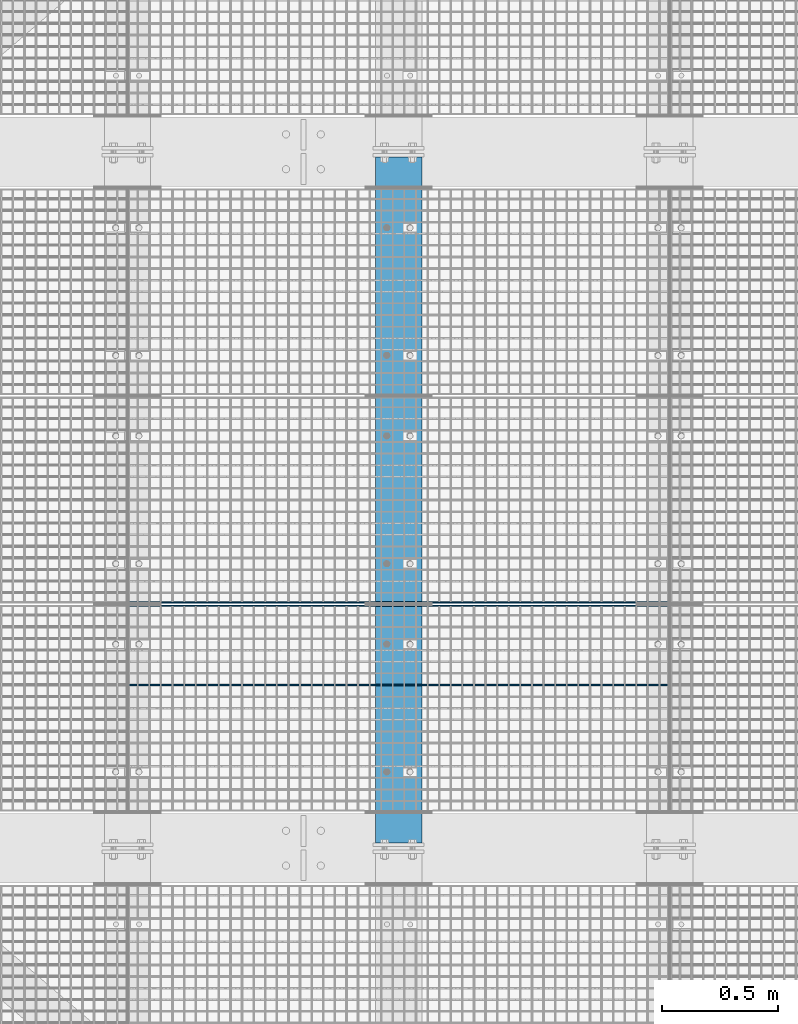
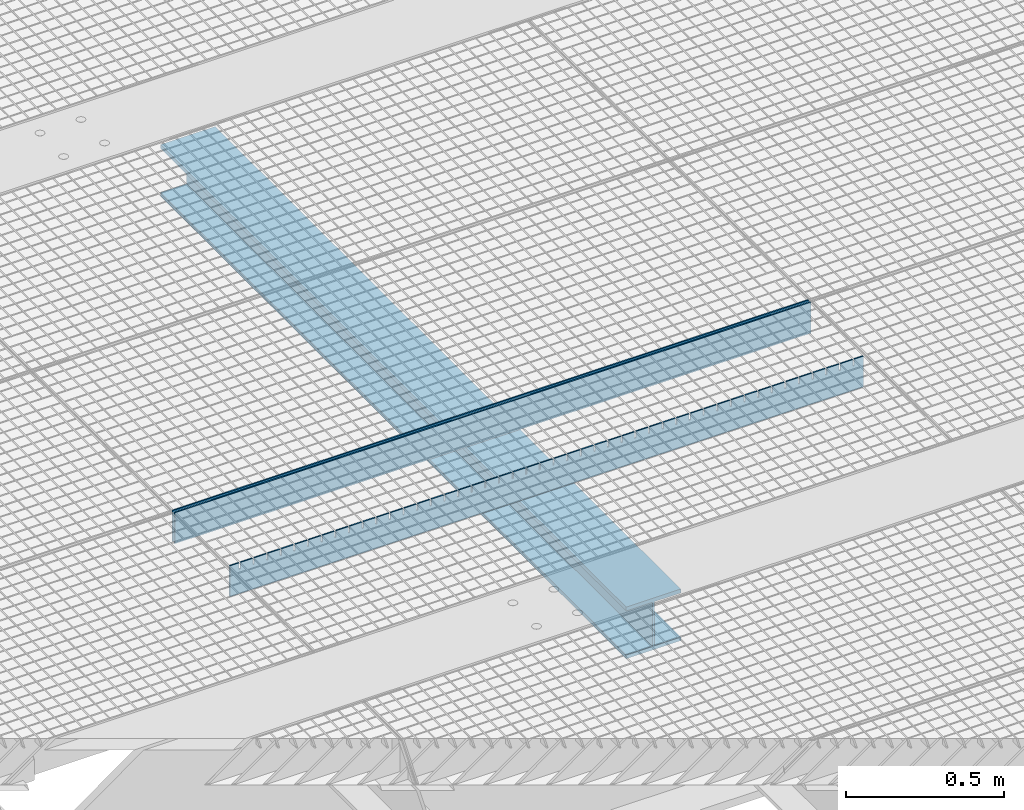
# One storey, part 384 of 1530: 4 beams.
"""IFC2X3 building model written with IfcOpenShell, lengths in millimetres."""

from ifc_helpers import new_model, si_unit, frame, origin_with_axes, place, context, subcontext, project, spatial, faceted_brep, material, type_object, element, save


model = new_model("IFC2X3")

# Units and contexts
model_context = context("Model", 3, precision=1e-05, world=origin_with_axes())
body_context = subcontext(model_context, "Body", "Model", "MODEL_VIEW")
ifc_project = project(units=[si_unit("LENGTHUNIT", "METRE", prefix="MILLI"), si_unit("AREAUNIT", "SQUARE_METRE"), si_unit("VOLUMEUNIT", "CUBIC_METRE"), si_unit("MASSUNIT", "GRAM", prefix="KILO"), si_unit("TIMEUNIT", "SECOND"), si_unit("PLANEANGLEUNIT", "RADIAN"), si_unit("SOLIDANGLEUNIT", "STERADIAN"), si_unit("THERMODYNAMICTEMPERATUREUNIT", "DEGREE_CELSIUS"), si_unit("LUMINOUSINTENSITYUNIT", "LUMEN")], contexts=[model_context])

# Site, building, storey
site_placement = place(None, origin_with_axes())
site = spatial("IfcSite", under=ifc_project, at=site_placement, Name="Brattvåg", CompositionType="ELEMENT")
building_placement = place(site_placement, origin_with_axes())
building = spatial("IfcBuilding", under=site, at=building_placement, Name="Undefined", CompositionType="ELEMENT")
storey_placement = place(building_placement, origin_with_axes())
storey = spatial("IfcBuildingStorey", under=building, at=storey_placement, Name="Undefined", CompositionType="ELEMENT", Elevation=0.0)

# Beams
ifc_material_1 = material(Name="STEEL/S355J2")
beam_type_1 = type_object("IfcBeamType", Name="120*5", PredefinedType="NOTDEFINED")
beam_1_placement = place(storey_placement, frame((7570.01317977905, 3702.99487304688, -59.9998626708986), z_axis=(0.0, 0.0, 1.0), x_axis=(-1.0, 1.99999855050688e-09, 0.0)))
element("IfcBeam", 1, at=beam_1_placement, inside=storey, type_object=beam_type_1, material=ifc_material_1, Name="GRATING", context=body_context, shape_type="Brep", body=[
    faceted_brep([(83.5790367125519, -2.50000000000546, 60.0000722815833), (83.5790367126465, -2.50000000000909, 35.0001373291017), (83.5790367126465, 2.50022888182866, 35.0001373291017), (83.5790367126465, 2.5, 60.0), (88.5790367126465, -2.50000000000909, 35.0001373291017), (88.5790367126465, 2.50022888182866, 35.0001373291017), (88.5790367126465, -2.50000000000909, 60.0001373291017), (88.5790367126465, 2.5, 60.0), (38.6284370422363, -2.50000000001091, 60.0001373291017), (38.6284370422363, 2.5, 60.0), (38.6284370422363, 2.49999999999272, 35.0001373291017), (38.6284370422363, -2.50000000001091, 35.0001373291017), (33.6284370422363, 2.49999999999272, 35.0001373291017), (33.6284370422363, -2.50000000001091, 35.0001373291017), (33.6284370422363, -2.5, 60.0), (33.6284370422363, 2.5, 60.0), (0.0, 2.5, 60.0), (0.0, -2.5, 60.0), (0.0, -2.5, -60.0), (0.0, 2.5, -60.0), (2319.99865722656, 2.5, -60.0), (2319.99865722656, -2.5, -60.0), (2319.99865722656, -2.5, 60.0), (2319.99865722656, 2.5, 60.0), (2286.37871932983, 2.5, 60.0), (2286.37871932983, -2.50000000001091, 60.0001373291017), (2286.37871932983, 2.49999999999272, 35.0001373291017), (2286.37871932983, -2.50000000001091, 35.0001373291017), (2281.37871932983, 2.49999999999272, 35.0001373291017), (2281.37871932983, -2.50000000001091, 35.0001373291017), (2281.37871932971, -2.50000000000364, 60.0000634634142), (2281.37871932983, 2.5, 60.0), (2236.42859649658, 2.5, 60.0), (2236.42859649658, -2.50000000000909, 60.0001373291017), (2236.42859649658, 2.50022888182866, 35.0001373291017), (2236.42859649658, -2.50000000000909, 35.0001373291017), (2231.42859649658, 2.50022888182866, 35.0001373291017), (2231.42859649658, -2.50000000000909, 35.0001373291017), (2231.42859649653, -2.50000000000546, 60.0000910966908), (2231.42859649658, 2.5, 60.0), (2186.47847366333, 2.5, 60.0), (2186.47847366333, -2.50000000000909, 60.0001373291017), (2186.47847366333, 2.50022888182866, 35.0001373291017), (2186.47847366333, -2.50000000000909, 35.0001373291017), (2181.47847366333, 2.50022888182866, 35.0001373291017), (2181.47847366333, -2.50000000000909, 35.0001373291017), (2181.47847366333, -2.5, 60.0), (2181.47847366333, 2.5, 60.0), (2136.52882766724, 2.5, 60.0), (2136.52882766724, -2.50000000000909, 60.0001373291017), (2136.52882766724, 2.50022888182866, 35.0001373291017), (2136.52882766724, -2.50000000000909, 35.0001373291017), (2131.52882766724, 2.50022888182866, 35.0001373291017), (2131.52882766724, -2.50000000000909, 35.0001373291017), (2131.52882766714, -2.50000000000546, 60.0000722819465), (2131.52882766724, 2.5, 60.0), (2086.57870483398, 2.5, 60.0), (2086.57870483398, -2.50000000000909, 60.0001373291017), (2086.57870483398, 2.50022888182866, 35.0001373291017), (2086.57870483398, -2.50000000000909, 35.0001373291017), (2081.57870483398, 2.50022888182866, 35.0001373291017), (2081.57870483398, -2.50000000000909, 35.0001373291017), (2081.57870483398, -2.5, 60.0), (2081.57870483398, 2.5, 60.0), (2036.62858200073, 2.5, 60.0), (2036.62858200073, -2.50000000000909, 60.0001373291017), (2036.62858200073, 2.50022888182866, 35.0001373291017), (2036.62858200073, -2.50000000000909, 35.0001373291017), (2031.62858200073, 2.50022888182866, 35.0001373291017), (2031.62858200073, -2.50000000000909, 35.0001373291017), (2031.62858200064, -2.50000000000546, 60.0000722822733), (2031.62858200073, 2.5, 60.0), (1986.67845916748, 2.5, 60.0), (1986.67845916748, -2.50000000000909, 60.0001373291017), (1986.67845916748, 2.50022888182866, 35.0001373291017), (1986.67845916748, -2.50000000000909, 35.0001373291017), (1981.67845916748, 2.50022888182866, 35.0001373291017), (1981.67845916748, -2.50000000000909, 35.0001373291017), (1981.67845916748, -2.5, 60.0), (1981.67845916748, 2.5, 60.0), (1936.72881317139, 2.5, 60.0), (1936.72881317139, -2.50000000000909, 60.0001373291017), (1936.72881317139, 2.50022888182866, 35.0001373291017), (1936.72881317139, -2.50000000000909, 35.0001373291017), (1931.72881317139, 2.50022888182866, 35.0001373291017), (1931.72881317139, -2.50000000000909, 35.0001373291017), (1931.72881317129, -2.50000000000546, 60.0000722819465), (1931.72881317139, 2.5, 60.0), (1886.77869033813, 2.5, 60.0), (1886.77869033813, -2.50000000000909, 60.0001373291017), (1886.77869033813, 2.50022888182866, 35.0001373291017), (1886.77869033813, -2.50000000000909, 35.0001373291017), (1881.77869033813, 2.50022888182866, 35.0001373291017), (1881.77869033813, -2.50000000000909, 35.0001373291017), (1881.77869033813, -2.5, 60.0), (1881.77869033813, 2.5, 60.0), (1836.82856750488, 2.5, 60.0), (1836.82856750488, -2.50000000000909, 60.0001373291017), (1836.82856750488, 2.50022888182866, 35.0001373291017), (1836.82856750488, -2.50000000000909, 35.0001373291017), (1831.82856750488, 2.50022888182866, 35.0001373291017), (1831.82856750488, -2.50000000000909, 35.0001373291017), (1831.82856750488, -2.5, 60.0), (1831.82856750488, 2.5, 60.0), (1786.87892150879, 2.5, 60.0), (1786.87892150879, -2.50000000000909, 60.0001373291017), (1786.87892150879, 2.50022888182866, 35.0001373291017), (1786.87892150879, -2.50000000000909, 35.0001373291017), (1781.87892150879, 2.50022888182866, 35.0001373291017), (1781.87892150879, -2.50000000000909, 35.0001373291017), (1781.87892150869, -2.50000000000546, 60.0000722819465), (1781.87892150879, 2.5, 60.0), (1736.92879867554, 2.5, 60.0), (1736.92879867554, -2.50000000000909, 60.0001373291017), (1736.92879867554, 2.50022888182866, 35.0001373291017), (1736.92879867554, -2.50000000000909, 35.0001373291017), (1731.92879867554, 2.50022888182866, 35.0001373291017), (1731.92879867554, -2.50000000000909, 35.0001373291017), (1731.92879867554, -2.5, 60.0), (1731.92879867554, 2.5, 60.0), (1686.97867584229, 2.5, 60.0), (1686.97867584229, -2.50000000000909, 60.0001373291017), (1686.97867584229, 2.50022888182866, 35.0001373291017), (1686.97867584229, -2.50000000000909, 35.0001373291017), (1681.97867584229, 2.50022888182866, 35.0001373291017), (1681.97867584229, -2.50000000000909, 35.0001373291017), (1681.97867584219, -2.50000000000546, 60.0000722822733), (1681.97867584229, 2.5, 60.0), (1637.02855300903, 2.5, 60.0), (1637.02855300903, -2.50000000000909, 60.0001373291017), (1637.02855300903, 2.50022888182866, 35.0001373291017), (1637.02855300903, -2.50000000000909, 35.0001373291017), (1632.02855300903, 2.50022888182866, 35.0001373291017), (1632.02855300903, -2.50000000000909, 35.0001373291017), (1632.02855300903, -2.5, 60.0), (1632.02855300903, 2.5, 60.0), (1587.07890701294, 2.5, 60.0), (1587.07890701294, -2.50000000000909, 60.0001373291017), (1587.07890701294, 2.50022888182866, 35.0001373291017), (1587.07890701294, -2.50000000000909, 35.0001373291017), (1582.07890701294, 2.50022888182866, 35.0001373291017), (1582.07890701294, -2.50000000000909, 35.0001373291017), (1582.07890701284, -2.50000000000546, 60.0000722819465), (1582.07890701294, 2.5, 60.0), (1537.12878417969, 2.5, 60.0), (1537.12878417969, -2.50000000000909, 60.0001373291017), (1537.12878417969, 2.50022888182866, 35.0001373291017), (1537.12878417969, -2.50000000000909, 35.0001373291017), (1532.12878417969, 2.50022888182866, 35.0001373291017), (1532.12878417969, -2.50000000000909, 35.0001373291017), (1532.12878417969, -2.5, 60.0), (1532.12878417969, 2.5, 60.0), (1487.17866134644, 2.5, 60.0), (1487.17866134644, -2.50000000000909, 60.0001373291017), (1487.17866134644, 2.50022888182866, 35.0001373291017), (1487.17866134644, -2.50000000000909, 35.0001373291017), (1482.17866134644, 2.50022888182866, 35.0001373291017), (1482.17866134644, -2.50000000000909, 35.0001373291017), (1482.17866134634, -2.50000000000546, 60.0000722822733), (1482.17866134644, 2.5, 60.0), (1437.22853851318, 2.5, 60.0), (1437.22853851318, -2.50000000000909, 60.0001373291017), (1437.22853851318, 2.50022888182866, 35.0001373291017), (1437.22853851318, -2.50000000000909, 35.0001373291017), (1432.22853851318, 2.50022888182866, 35.0001373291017), (1432.22853851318, -2.50000000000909, 35.0001373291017), (1432.22853851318, -2.5, 60.0), (1432.22853851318, 2.5, 60.0), (1387.27889251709, 2.5, 60.0), (1387.27889251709, -2.50000000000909, 60.0001373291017), (1387.27889251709, 2.50022888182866, 35.0001373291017), (1387.27889251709, -2.50000000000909, 35.0001373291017), (1382.27889251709, 2.50022888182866, 35.0001373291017), (1382.27889251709, -2.50000000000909, 35.0001373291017), (1382.278892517, -2.50000000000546, 60.0000722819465), (1382.27889251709, 2.5, 60.0), (1337.32876968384, 2.5, 60.0), (1337.32876968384, -2.50000000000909, 60.0001373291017), (1337.32876968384, 2.50022888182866, 35.0001373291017), (1337.32876968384, -2.50000000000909, 35.0001373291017), (1332.32876968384, 2.50022888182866, 35.0001373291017), (1332.32876968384, -2.50000000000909, 35.0001373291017), (1332.32876968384, -2.5, 60.0), (1332.32876968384, 2.5, 60.0), (1287.37864685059, 2.5, 60.0), (1287.37864685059, -2.50000000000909, 60.0001373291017), (1287.37864685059, 2.50022888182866, 35.0001373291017), (1287.37864685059, -2.50000000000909, 35.0001373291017), (1282.37864685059, 2.50022888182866, 35.0001373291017), (1282.37864685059, -2.50000000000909, 35.0001373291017), (1282.37864685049, -2.50000000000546, 60.0000722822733), (1282.37864685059, 2.5, 60.0), (1237.42852401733, 2.5, 60.0), (1237.42852401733, -2.50000000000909, 60.0001373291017), (1237.42852401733, 2.50022888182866, 35.0001373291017), (1237.42852401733, -2.50000000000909, 35.0001373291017), (1232.42852401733, 2.50022888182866, 35.0001373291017), (1232.42852401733, -2.50000000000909, 35.0001373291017), (1232.42852401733, -2.5, 60.0), (1232.42852401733, 2.5, 60.0), (1187.47887802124, 2.5, 60.0), (1187.47887802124, -2.50000000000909, 60.0001373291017), (1187.47887802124, 2.50022888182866, 35.0001373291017), (1187.47887802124, -2.50000000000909, 35.0001373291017), (1182.47887802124, 2.50022888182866, 35.0001373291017), (1182.47887802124, -2.50000000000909, 35.0001373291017), (1182.47887802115, -2.50000000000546, 60.0000722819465), (1182.47887802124, 2.5, 60.0), (1137.52875518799, 2.5, 60.0), (1137.52875518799, -2.50000000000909, 60.0001373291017), (1137.52875518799, 2.50022888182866, 35.0001373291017), (1137.52875518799, -2.50000000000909, 35.0001373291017), (1132.52875518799, 2.50022888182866, 35.0001373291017), (1132.52875518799, -2.50000000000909, 35.0001373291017), (1132.52875518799, -2.5, 60.0), (1132.52875518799, 2.5, 60.0), (1087.57863235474, 2.5, 60.0), (1087.57863235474, -2.50000000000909, 60.0001373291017), (1087.57863235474, 2.50022888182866, 35.0001373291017), (1087.57863235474, -2.50000000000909, 35.0001373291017), (1082.57863235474, 2.50022888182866, 35.0001373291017), (1082.57863235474, -2.50000000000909, 35.0001373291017), (1082.57863235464, -2.50000000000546, 60.0000722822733), (1082.57863235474, 2.5, 60.0), (1037.62850952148, 2.5, 60.0), (1037.62850952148, -2.50000000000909, 60.0001373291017), (1037.62850952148, 2.50022888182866, 35.0001373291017), (1037.62850952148, -2.50000000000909, 35.0001373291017), (1032.62850952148, 2.50022888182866, 35.0001373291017), (1032.62850952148, -2.50000000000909, 35.0001373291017), (1032.62850952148, -2.5, 60.0), (1032.62850952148, 2.5, 60.0), (987.678863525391, 2.5, 60.0), (987.678863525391, -2.50000000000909, 60.0001373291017), (987.678863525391, 2.50022888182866, 35.0001373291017), (987.678863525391, -2.50000000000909, 35.0001373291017), (982.678863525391, 2.50022888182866, 35.0001373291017), (982.678863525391, -2.50000000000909, 35.0001373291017), (982.678863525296, -2.50000000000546, 60.0000722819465), (982.678863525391, 2.5, 60.0), (937.728740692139, 2.5, 60.0), (937.728740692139, -2.50000000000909, 60.0001373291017), (937.728740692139, 2.50022888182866, 35.0001373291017), (937.728740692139, -2.50000000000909, 35.0001373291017), (932.728740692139, 2.50022888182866, 35.0001373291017), (932.728740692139, -2.50000000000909, 35.0001373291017), (932.728740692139, -2.5, 60.0), (932.728740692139, 2.5, 60.0), (887.778617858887, 2.5, 60.0), (887.778617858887, -2.50000000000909, 60.0001373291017), (887.778617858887, 2.50022888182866, 35.0001373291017), (887.778617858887, -2.50000000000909, 35.0001373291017), (882.778617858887, 2.50022888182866, 35.0001373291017), (882.778617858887, -2.50000000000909, 35.0001373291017), (882.778617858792, -2.50000000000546, 60.0000722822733), (882.778617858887, 2.5, 60.0), (837.828495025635, 2.5, 60.0), (837.828495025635, -2.50000000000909, 60.0001373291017), (837.828495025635, 2.50022888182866, 35.0001373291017), (837.828495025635, -2.50000000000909, 35.0001373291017), (832.828495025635, 2.50022888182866, 35.0001373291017), (832.828495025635, -2.50000000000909, 35.0001373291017), (832.828495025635, -2.5, 60.0), (832.828495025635, 2.5, 60.0), (787.878849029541, 2.5, 60.0), (787.878849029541, -2.50000000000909, 60.0001373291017), (787.878849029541, 2.50022888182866, 35.0001373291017), (787.878849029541, -2.50000000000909, 35.0001373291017), (782.878849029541, 2.50022888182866, 35.0001373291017), (782.878849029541, -2.50000000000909, 35.0001373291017), (782.878849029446, -2.50000000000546, 60.0000722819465), (782.878849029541, 2.5, 60.0), (737.928726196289, 2.5, 60.0), (737.928726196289, -2.50000000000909, 60.0001373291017), (737.928726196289, 2.50022888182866, 35.0001373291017), (737.928726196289, -2.50000000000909, 35.0001373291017), (732.928726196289, 2.50022888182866, 35.0001373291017), (732.928726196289, -2.50000000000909, 35.0001373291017), (732.928726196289, -2.5, 60.0), (732.928726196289, 2.5, 60.0), (687.978603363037, 2.5, 60.0), (687.978603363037, -2.50000000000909, 60.0001373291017), (687.978603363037, 2.50022888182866, 35.0001373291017), (687.978603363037, -2.50000000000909, 35.0001373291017), (682.978603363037, 2.50022888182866, 35.0001373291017), (682.978603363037, -2.50000000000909, 35.0001373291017), (682.978603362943, -2.50000000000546, 60.0000722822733), (682.978603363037, 2.5, 60.0), (638.028480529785, 2.5, 60.0), (638.028480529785, -2.50000000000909, 60.0001373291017), (638.028480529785, 2.50022888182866, 35.0001373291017), (638.028480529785, -2.50000000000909, 35.0001373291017), (633.028480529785, 2.50022888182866, 35.0001373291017), (633.028480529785, -2.50000000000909, 35.0001373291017), (633.028480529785, -2.5, 60.0), (633.028480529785, 2.5, 60.0), (588.078834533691, 2.5, 60.0), (588.078834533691, -2.50000000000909, 60.0001373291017), (588.078834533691, 2.50022888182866, 35.0001373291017), (588.078834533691, -2.50000000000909, 35.0001373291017), (583.078834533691, 2.50022888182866, 35.0001373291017), (583.078834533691, -2.50000000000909, 35.0001373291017), (583.078834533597, -2.50000000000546, 60.0000722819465), (583.078834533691, 2.5, 60.0), (538.128711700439, 2.5, 60.0), (538.128711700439, -2.50000000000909, 60.0001373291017), (538.128711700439, 2.50022888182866, 35.0001373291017), (538.128711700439, -2.50000000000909, 35.0001373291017), (533.128711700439, 2.50022888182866, 35.0001373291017), (533.128711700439, -2.50000000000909, 35.0001373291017), (533.128711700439, -2.5, 60.0), (533.128711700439, 2.5, 60.0), (488.178588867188, 2.5, 60.0), (488.178588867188, -2.50000000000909, 60.0001373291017), (488.178588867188, 2.50022888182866, 35.0001373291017), (488.178588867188, -2.50000000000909, 35.0001373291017), (483.178588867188, 2.50022888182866, 35.0001373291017), (483.178588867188, -2.50000000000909, 35.0001373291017), (483.178588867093, -2.50000000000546, 60.0000722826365), (483.178588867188, 2.5, 60.0), (438.228942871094, 2.5, 60.0), (438.228942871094, -2.50000000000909, 60.0001373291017), (438.228942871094, 2.50022888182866, 35.0001373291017), (438.228942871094, -2.50000000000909, 35.0001373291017), (433.228942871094, 2.50022888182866, 35.0001373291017), (433.228942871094, -2.50000000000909, 35.0001373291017), (433.228942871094, -2.5, 60.0), (433.228942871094, 2.5, 60.0), (388.278820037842, 2.5, 60.0), (388.278820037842, -2.50000000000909, 60.0001373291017), (388.278820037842, 2.50022888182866, 35.0001373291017), (388.278820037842, -2.50000000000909, 35.0001373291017), (383.278820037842, 2.50022888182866, 35.0001373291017), (383.278820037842, -2.50000000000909, 35.0001373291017), (383.278820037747, -2.50000000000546, 60.0000722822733), (383.278820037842, 2.5, 60.0), (338.32869720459, 2.5, 60.0), (338.32869720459, -2.50000000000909, 60.0001373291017), (338.32869720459, 2.50022888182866, 35.0001373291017), (338.32869720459, -2.50000000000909, 35.0001373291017), (333.32869720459, 2.50022888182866, 35.0001373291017), (333.32869720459, -2.50000000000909, 35.0001373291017), (333.32869720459, -2.5, 60.0), (333.32869720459, 2.5, 60.0), (288.378574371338, 2.5, 60.0), (288.378574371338, -2.50000000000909, 60.0001373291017), (288.378574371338, 2.50022888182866, 35.0001373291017), (288.378574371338, -2.50000000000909, 35.0001373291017), (283.378574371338, 2.50022888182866, 35.0001373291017), (283.378574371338, -2.50000000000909, 35.0001373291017), (283.378574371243, -2.50000000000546, 60.0000722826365), (283.378574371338, 2.5, 60.0), (238.428928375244, 2.5, 60.0), (238.428928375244, -2.50000000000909, 60.0001373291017), (238.428928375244, 2.50022888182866, 35.0001373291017), (238.428928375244, -2.50000000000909, 35.0001373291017), (233.428928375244, 2.50022888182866, 35.0001373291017), (233.428928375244, -2.50000000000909, 35.0001373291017), (233.428928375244, -2.5, 60.0), (233.428928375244, 2.5, 60.0), (188.478328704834, 2.5, 60.0), (188.478328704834, -2.50000000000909, 60.0001373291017), (188.478328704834, 2.50022888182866, 35.0001373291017), (188.478328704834, -2.50000000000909, 35.0001373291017), (183.478328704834, 2.50022888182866, 35.0001373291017), (183.478328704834, -2.50000000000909, 35.0001373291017), (183.478328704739, -2.50000000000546, 60.0000722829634), (183.478328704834, 2.5, 60.0), (138.52868270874, 2.5, 60.0), (138.52868270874, -2.50000000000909, 60.0001373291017), (138.52868270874, 2.50022888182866, 35.0001373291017), (138.52868270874, -2.50000000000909, 35.0001373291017), (133.52868270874, 2.50022888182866, 35.0001373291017), (133.52868270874, -2.50000000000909, 35.0001373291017), (133.52868270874, -2.5, 60.0), (133.52868270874, 2.5, 60.0)], [[[0, 1, 2, 3]], [[4, 5, 2, 1]], [[6, 7, 5, 4]], [[8, 9, 10, 11]], [[11, 10, 12, 13]], [[14, 13, 12, 15]], [[16, 17, 14, 15]], [[18, 17, 16, 19]], [[18, 19, 20, 21]], [[22, 21, 20, 23]], [[22, 23, 24, 25]], [[25, 24, 26, 27]], [[27, 26, 28, 29]], [[30, 29, 28, 31]], [[32, 33, 30, 31]], [[33, 32, 34, 35]], [[35, 34, 36, 37]], [[38, 37, 36, 39]], [[40, 41, 38, 39]], [[41, 40, 42, 43]], [[43, 42, 44, 45]], [[46, 45, 44, 47]], [[46, 47, 48, 49]], [[49, 48, 50, 51]], [[51, 50, 52, 53]], [[54, 53, 52, 55]], [[56, 57, 54, 55]], [[57, 56, 58, 59]], [[59, 58, 60, 61]], [[62, 61, 60, 63]], [[62, 63, 64, 65]], [[65, 64, 66, 67]], [[67, 66, 68, 69]], [[70, 69, 68, 71]], [[72, 73, 70, 71]], [[73, 72, 74, 75]], [[75, 74, 76, 77]], [[78, 77, 76, 79]], [[78, 79, 80, 81]], [[81, 80, 82, 83]], [[83, 82, 84, 85]], [[86, 85, 84, 87]], [[88, 89, 86, 87]], [[89, 88, 90, 91]], [[91, 90, 92, 93]], [[94, 93, 92, 95]], [[94, 95, 96, 97]], [[97, 96, 98, 99]], [[99, 98, 100, 101]], [[102, 101, 100, 103]], [[102, 103, 104, 105]], [[105, 104, 106, 107]], [[107, 106, 108, 109]], [[110, 109, 108, 111]], [[112, 113, 110, 111]], [[113, 112, 114, 115]], [[115, 114, 116, 117]], [[118, 117, 116, 119]], [[118, 119, 120, 121]], [[121, 120, 122, 123]], [[123, 122, 124, 125]], [[126, 125, 124, 127]], [[128, 129, 126, 127]], [[129, 128, 130, 131]], [[131, 130, 132, 133]], [[134, 133, 132, 135]], [[134, 135, 136, 137]], [[137, 136, 138, 139]], [[139, 138, 140, 141]], [[142, 141, 140, 143]], [[144, 145, 142, 143]], [[145, 144, 146, 147]], [[147, 146, 148, 149]], [[150, 149, 148, 151]], [[150, 151, 152, 153]], [[153, 152, 154, 155]], [[155, 154, 156, 157]], [[158, 157, 156, 159]], [[160, 161, 158, 159]], [[161, 160, 162, 163]], [[163, 162, 164, 165]], [[166, 165, 164, 167]], [[166, 167, 168, 169]], [[169, 168, 170, 171]], [[171, 170, 172, 173]], [[174, 173, 172, 175]], [[176, 177, 174, 175]], [[177, 176, 178, 179]], [[179, 178, 180, 181]], [[182, 181, 180, 183]], [[182, 183, 184, 185]], [[185, 184, 186, 187]], [[187, 186, 188, 189]], [[190, 189, 188, 191]], [[192, 193, 190, 191]], [[193, 192, 194, 195]], [[195, 194, 196, 197]], [[198, 197, 196, 199]], [[198, 199, 200, 201]], [[201, 200, 202, 203]], [[203, 202, 204, 205]], [[206, 205, 204, 207]], [[208, 209, 206, 207]], [[209, 208, 210, 211]], [[211, 210, 212, 213]], [[214, 213, 212, 215]], [[214, 215, 216, 217]], [[217, 216, 218, 219]], [[219, 218, 220, 221]], [[222, 221, 220, 223]], [[224, 225, 222, 223]], [[225, 224, 226, 227]], [[227, 226, 228, 229]], [[230, 229, 228, 231]], [[230, 231, 232, 233]], [[233, 232, 234, 235]], [[235, 234, 236, 237]], [[238, 237, 236, 239]], [[240, 241, 238, 239]], [[241, 240, 242, 243]], [[243, 242, 244, 245]], [[246, 245, 244, 247]], [[246, 247, 248, 249]], [[249, 248, 250, 251]], [[251, 250, 252, 253]], [[254, 253, 252, 255]], [[256, 257, 254, 255]], [[257, 256, 258, 259]], [[259, 258, 260, 261]], [[262, 261, 260, 263]], [[262, 263, 264, 265]], [[265, 264, 266, 267]], [[267, 266, 268, 269]], [[270, 269, 268, 271]], [[272, 273, 270, 271]], [[273, 272, 274, 275]], [[275, 274, 276, 277]], [[278, 277, 276, 279]], [[278, 279, 280, 281]], [[281, 280, 282, 283]], [[283, 282, 284, 285]], [[286, 285, 284, 287]], [[288, 289, 286, 287]], [[289, 288, 290, 291]], [[291, 290, 292, 293]], [[294, 293, 292, 295]], [[294, 295, 296, 297]], [[297, 296, 298, 299]], [[299, 298, 300, 301]], [[302, 301, 300, 303]], [[304, 305, 302, 303]], [[305, 304, 306, 307]], [[307, 306, 308, 309]], [[310, 309, 308, 311]], [[310, 311, 312, 313]], [[313, 312, 314, 315]], [[315, 314, 316, 317]], [[318, 317, 316, 319]], [[320, 321, 318, 319]], [[321, 320, 322, 323]], [[323, 322, 324, 325]], [[326, 325, 324, 327]], [[326, 327, 328, 329]], [[329, 328, 330, 331]], [[331, 330, 332, 333]], [[334, 333, 332, 335]], [[336, 337, 334, 335]], [[337, 336, 338, 339]], [[339, 338, 340, 341]], [[342, 341, 340, 343]], [[342, 343, 344, 345]], [[345, 344, 346, 347]], [[347, 346, 348, 349]], [[350, 349, 348, 351]], [[352, 353, 350, 351]], [[353, 352, 354, 355]], [[355, 354, 356, 357]], [[358, 357, 356, 359]], [[358, 359, 360, 361]], [[361, 360, 362, 363]], [[363, 362, 364, 365]], [[366, 365, 364, 367]], [[368, 369, 366, 367]], [[369, 368, 370, 371]], [[371, 370, 372, 373]], [[374, 373, 372, 375]], [[1, 0, 8, 11, 13, 14, 17, 18, 21, 22, 25, 27, 29, 30, 33, 35, 37, 38, 41, 43, 45, 46, 49, 51, 53, 54, 57, 59, 61, 62, 65, 67, 69, 70, 73, 75, 77, 78, 81, 83, 85, 86, 89, 91, 93, 94, 97, 99, 101, 102, 105, 107, 109, 110, 113, 115, 117, 118, 121, 123, 125, 126, 129, 131, 133, 134, 137, 139, 141, 142, 145, 147, 149, 150, 153, 155, 157, 158, 161, 163, 165, 166, 169, 171, 173, 174, 177, 179, 181, 182, 185, 187, 189, 190, 193, 195, 197, 198, 201, 203, 205, 206, 209, 211, 213, 214, 217, 219, 221, 222, 225, 227, 229, 230, 233, 235, 237, 238, 241, 243, 245, 246, 249, 251, 253, 254, 257, 259, 261, 262, 265, 267, 269, 270, 273, 275, 277, 278, 281, 283, 285, 286, 289, 291, 293, 294, 297, 299, 301, 302, 305, 307, 309, 310, 313, 315, 317, 318, 321, 323, 325, 326, 329, 331, 333, 334, 337, 339, 341, 342, 345, 347, 349, 350, 353, 355, 357, 358, 361, 363, 365, 366, 369, 371, 373, 374, 6, 4]], [[9, 8, 0, 3]], [[375, 372, 370, 368, 367, 364, 362, 360, 359, 356, 354, 352, 351, 348, 346, 344, 343, 340, 338, 336, 335, 332, 330, 328, 327, 324, 322, 320, 319, 316, 314, 312, 311, 308, 306, 304, 303, 300, 298, 296, 295, 292, 290, 288, 287, 284, 282, 280, 279, 276, 274, 272, 271, 268, 266, 264, 263, 260, 258, 256, 255, 252, 250, 248, 247, 244, 242, 240, 239, 236, 234, 232, 231, 228, 226, 224, 223, 220, 218, 216, 215, 212, 210, 208, 207, 204, 202, 200, 199, 196, 194, 192, 191, 188, 186, 184, 183, 180, 178, 176, 175, 172, 170, 168, 167, 164, 162, 160, 159, 156, 154, 152, 151, 148, 146, 144, 143, 140, 138, 136, 135, 132, 130, 128, 127, 124, 122, 120, 119, 116, 114, 112, 111, 108, 106, 104, 103, 100, 98, 96, 95, 92, 90, 88, 87, 84, 82, 80, 79, 76, 74, 72, 71, 68, 66, 64, 63, 60, 58, 56, 55, 52, 50, 48, 47, 44, 42, 40, 39, 36, 34, 32, 31, 28, 26, 24, 23, 20, 19, 16, 15, 12, 10, 9, 3, 2, 5, 7]], [[374, 375, 7, 6]]]),
])
for number, where, z_axis, x_axis, name in (
    (2, (7575.00899291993, 4044.49917602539, -59.9998626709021), (0.0, 0.0, 1.0), (-1.0, 1.99999855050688e-09, 0.0), "GRATING"),
    (3, (5245.01067138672, 4058.49868774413, -59.9998626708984), (0.0, 0.0, 1.0), (1.0, 0.0, 0.0), "GRATING"),
):
    element("IfcBeam", number, at=place(storey_placement, frame(where, z_axis=z_axis, x_axis=x_axis)), inside=storey, type_object=beam_type_1, material=ifc_material_1, Name=name, context=body_context, shape_type="Brep", body=[
        faceted_brep([(0.0, 2.5, -60.0), (0.0, 2.5, 60.0), (2329.99832153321, 2.5, 60.0), (2329.99832153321, 2.5, -60.0), (0.0, -2.5, 60.0), (2329.99832153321, -2.5, 60.0), (0.0, -2.5, -60.0), (2329.99832153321, -2.5, -60.0)], [[[0, 1, 2, 3]], [[1, 4, 5, 2]], [[4, 6, 7, 5]], [[6, 0, 3, 7]], [[5, 7, 3, 2]], [[6, 4, 1, 0]]]),
    ])
ifc_material_2 = material(Name="STEEL/S355J2+N")
beam_type_2 = type_object("IfcBeamType", Name="HEB200", PredefinedType="NOTDEFINED")
beam_2_placement = place(storey_placement, frame((6410.00112915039, 3023.00155639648, -219.998931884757), z_axis=(0.0, 0.0, 1.0), x_axis=(0.0, 1.0, 0.0)))
element("IfcBeam", 4, at=beam_2_placement, inside=storey, type_object=beam_type_2, material=ifc_material_2, Name="STÅLBJELKE", context=body_context, shape_type="Brep", body=[
    faceted_brep([(0.0, 100.0, -100.0), (0.0, 100.0, -85.0), (2953.99993896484, 100.0, -85.0), (2953.99993896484, 100.0, -100.0), (0.0, 4.5, -85.0), (2953.99993896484, 4.5, -85.0), (0.0, 4.5, 85.0), (2953.99993896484, 4.5, 85.0), (0.0, 100.0, 85.0), (2953.99993896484, 100.0, 85.0), (0.0, 100.0, 100.0), (2953.99993896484, 100.0, 100.0), (0.0, -100.0, 100.0), (2953.99993896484, -100.0, 100.0), (0.0, -100.0, 85.0), (2953.99993896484, -100.0, 85.0), (0.0, -4.5, 85.0), (2953.99993896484, -4.5, 85.0), (0.0, -4.5, -85.0), (2953.99993896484, -4.5, -85.0), (0.0, -100.0, -85.0), (2953.99993896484, -100.0, -85.0), (0.0, -100.0, -100.0), (2953.99993896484, -100.0, -100.0)], [[[0, 1, 2, 3]], [[1, 4, 5, 2]], [[4, 6, 7, 5]], [[6, 8, 9, 7]], [[8, 10, 11, 9]], [[10, 12, 13, 11]], [[12, 14, 15, 13]], [[14, 16, 17, 15]], [[16, 18, 19, 17]], [[18, 20, 21, 19]], [[20, 22, 23, 21]], [[22, 0, 3, 23]], [[5, 7, 9, 11, 13, 15, 17, 19, 21, 23, 3, 2]], [[22, 20, 18, 16, 14, 12, 10, 8, 6, 4, 1, 0]]]),
])

save(model, "model.ifc")
